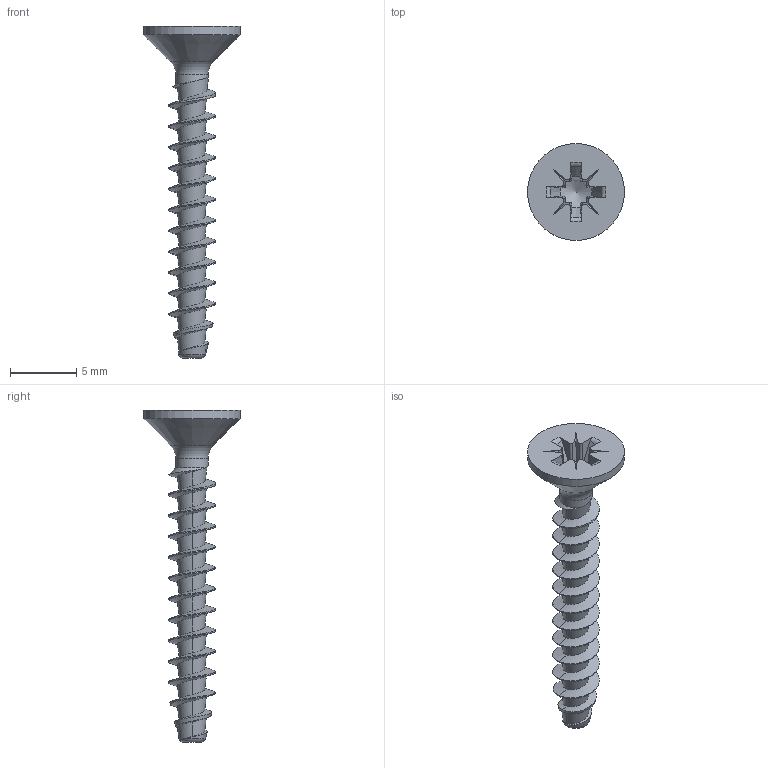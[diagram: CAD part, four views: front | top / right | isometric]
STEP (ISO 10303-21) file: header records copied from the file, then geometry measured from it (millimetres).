
FILE_DESCRIPTION(/* description */ (''),/* implementation_level */ '2;1');
FILE_NAME(/* name */ 'KN1033-STS-Neu-35x25-Z2.step',/* time_stamp */ '2017-10-20T11:48:33+02:00',/* author */ (''),/* organization */ (''),/* preprocessor_version */ 'ST-DEVELOPER v16',/* originating_system */ 'SIEMENS PLM Software NX 10.0',/* authorisation */ '');
FILE_SCHEMA (('AUTOMOTIVE_DESIGN { 1 0 10303 214 3 1 1 1 }'));
Length unit declared in the file: millimetre
Products named in the file (1): KN1033-STS-Neu-35x25-Z2
Bounding box: 7.3 x 7.3 x 25 mm (x, y, z)
Volume: 161 mm3; surface area: 404.9 mm2
Topology: 1 solids, 1 shells, 93 faces, 241 edges, 150 vertices
Faces by surface type: bspline 42, plane 26, cylinder 11, cone 8, torus 6
Full cylindrical faces by diameter (mm): 2.44 x1, 7.3 x1
Entity records: 5575 total; most frequent: CARTESIAN_POINT 3662, ORIENTED_EDGE 460, DIRECTION 257, EDGE_CURVE 230, VERTEX_POINT 146, B_SPLINE_CURVE_WITH_KNOTS 106, EDGE_LOOP 99, LINE 95
